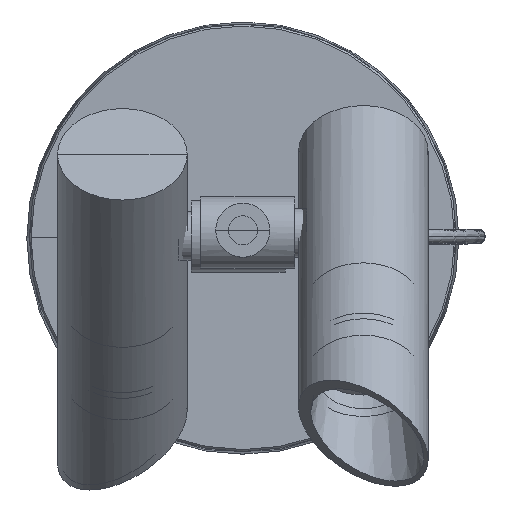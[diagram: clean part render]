
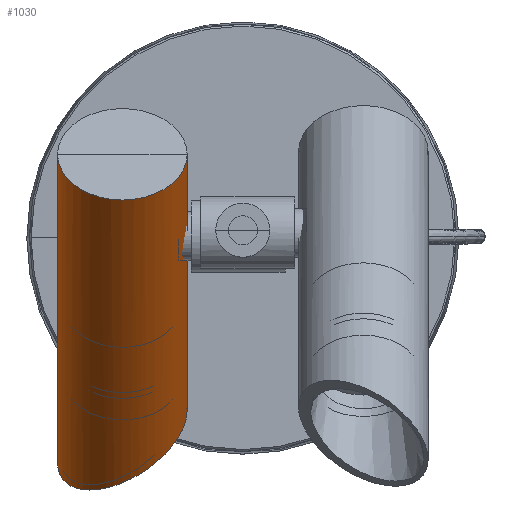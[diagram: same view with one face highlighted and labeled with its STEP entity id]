
A CAD part, top view. The second image highlights one B-rep face of the part: STEP entity #1030.
In plain terms, the highlighted cylindrical face has radius 17.994 mm (diameter 35.987 mm), a partial arc.
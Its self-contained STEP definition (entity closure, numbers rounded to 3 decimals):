
#46=ELLIPSE('',#1161,20.777,17.994);
#79=CYLINDRICAL_SURFACE('',#1167,17.994);
#175=FACE_OUTER_BOUND('',#255,.T.);
#255=EDGE_LOOP('',(#853,#854,#855,#856));
#323=CIRCLE('',#1168,17.994);
#379=LINE('',#2983,#439);
#380=LINE('',#2984,#440);
#439=VECTOR('',#1461,304.8);
#440=VECTOR('',#1462,304.8);
#505=VERTEX_POINT('',#2971);
#506=VERTEX_POINT('',#2972);
#509=VERTEX_POINT('',#2980);
#510=VERTEX_POINT('',#2981);
#621=EDGE_CURVE('',#505,#506,#46,.T.);
#626=EDGE_CURVE('',#506,#509,#379,.T.);
#627=EDGE_CURVE('',#510,#505,#380,.T.);
#628=EDGE_CURVE('',#510,#509,#323,.T.);
#853=ORIENTED_EDGE('',*,*,#628,.F.);
#854=ORIENTED_EDGE('',*,*,#627,.T.);
#855=ORIENTED_EDGE('',*,*,#621,.T.);
#856=ORIENTED_EDGE('',*,*,#626,.T.);
#1030=ADVANCED_FACE('',(#175),#79,.T.);
#1161=AXIS2_PLACEMENT_3D('',#2973,#1449,#1450);
#1167=AXIS2_PLACEMENT_3D('',#2985,#1463,#1464);
#1168=AXIS2_PLACEMENT_3D('',#2986,#1465,#1466);
#1449=DIRECTION('center_axis',(0.612,-0.612,0.5));
#1450=DIRECTION('ref_axis',(-0.354,0.354,0.866));
#1461=DIRECTION('',(0.707,-0.707,0.));
#1462=DIRECTION('',(-0.707,0.707,0.));
#1463=DIRECTION('center_axis',(0.707,-0.707,0.));
#1464=DIRECTION('ref_axis',(0.,0.,
1.));
#1465=DIRECTION('center_axis',(0.707,-0.707,0.));
#1466=DIRECTION('ref_axis',(0.,0.,
1.));
#2971=CARTESIAN_POINT('',(-63.063,63.063,63.165));
#2972=CARTESIAN_POINT('',(-48.372,48.372,27.177));
#2973=CARTESIAN_POINT('Origin',(-55.717,55.717,45.171));
#2980=CARTESIAN_POINT('',(22.664,-22.664,27.177));
#2981=CARTESIAN_POINT('',(22.664,-22.664,63.165));
#2983=CARTESIAN_POINT('',(-48.372,48.372,27.177));
#2984=CARTESIAN_POINT('',(22.664,-22.664,63.165));
#2985=CARTESIAN_POINT('Origin',(-33.403,33.403,45.171));
#2986=CARTESIAN_POINT('Origin',(22.664,-22.664,45.171));
